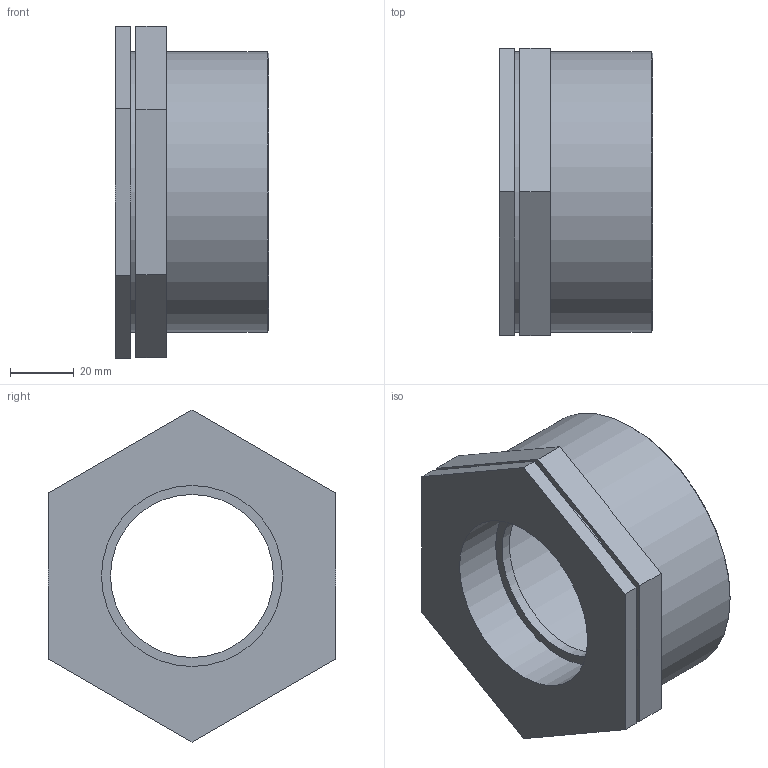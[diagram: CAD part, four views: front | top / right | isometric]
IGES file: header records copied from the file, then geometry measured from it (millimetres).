
Global section: file name: 050207030020_0502070300200A.ipt; native system: Autodesk Inventor 2015; preprocessor: unknown; author: KIM; date: 20170618.093148; units: millimetre
Bounding box: 48 x 90 x 103.92 mm (x, y, z)
Volume: 112037.4 mm3; surface area: 37016.9 mm2
Topology: 1 solids, 1 shells, 27 faces, 62 edges, 43 vertices
Faces by surface type: plane 20, revolution 4, cylinder 2, cone 1
Full cylindrical faces by diameter (mm): 87.884 x2
